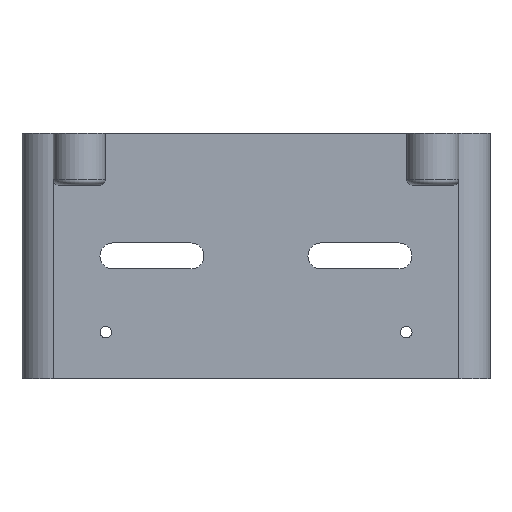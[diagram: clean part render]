
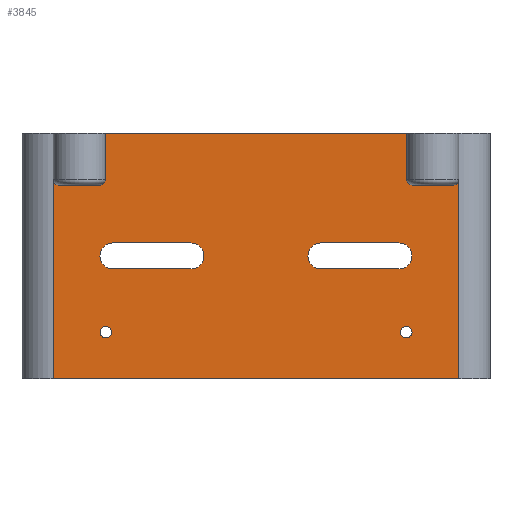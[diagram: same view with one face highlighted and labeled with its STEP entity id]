
A CAD part, front view. The second image highlights one B-rep face of the part: STEP entity #3845.
In plain terms, the highlighted planar face has unit normal (0, -1, 0).
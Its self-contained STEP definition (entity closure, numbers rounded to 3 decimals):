
#115=FACE_BOUND('',#391,.T.);
#116=FACE_BOUND('',#392,.T.);
#117=FACE_BOUND('',#393,.T.);
#118=FACE_BOUND('',#394,.T.);
#183=FACE_OUTER_BOUND('',#390,.T.);
#390=EDGE_LOOP('',(#2601,#2602,#2603,#2604,#2605,#2606,#2607,#2608,#2609,
#2610,#2611,#2612));
#391=EDGE_LOOP('',(#2613));
#392=EDGE_LOOP('',(#2614));
#393=EDGE_LOOP('',(#2615,#2616,#2617,#2618));
#394=EDGE_LOOP('',(#2619,#2620,#2621,#2622));
#667=CIRCLE('',#4075,1.);
#668=CIRCLE('',#4076,1.);
#669=CIRCLE('',#4077,1.);
#670=CIRCLE('',#4078,1.);
#671=CIRCLE('',#4079,1.1);
#672=CIRCLE('',#4080,1.1);
#673=CIRCLE('',#4081,2.5);
#674=CIRCLE('',#4082,2.5);
#675=CIRCLE('',#4083,2.5);
#676=CIRCLE('',#4084,2.5);
#847=LINE('',#5677,#1239);
#848=LINE('',#5679,#1240);
#849=LINE('',#5681,#1241);
#850=LINE('',#5685,#1242);
#851=LINE('',#5689,#1243);
#852=LINE('',#5691,#1244);
#853=LINE('',#5693,#1245);
#854=LINE('',#5697,#1246);
#855=LINE('',#5705,#1247);
#856=LINE('',#5709,#1248);
#857=LINE('',#5715,#1249);
#858=LINE('',#5718,#1250);
#1239=VECTOR('',#4496,10.);
#1240=VECTOR('',#4497,10.);
#1241=VECTOR('',#4498,10.);
#1242=VECTOR('',#4501,10.);
#1243=VECTOR('',#4504,10.);
#1244=VECTOR('',#4505,10.);
#1245=VECTOR('',#4506,10.);
#1246=VECTOR('',#4509,10.);
#1247=VECTOR('',#4516,10.);
#1248=VECTOR('',#4519,10.);
#1249=VECTOR('',#4524,10.);
#1250=VECTOR('',#4527,10.);
#1641=VERTEX_POINT('',#5675);
#1642=VERTEX_POINT('',#5676);
#1643=VERTEX_POINT('',#5678);
#1644=VERTEX_POINT('',#5680);
#1645=VERTEX_POINT('',#5682);
#1646=VERTEX_POINT('',#5684);
#1647=VERTEX_POINT('',#5686);
#1648=VERTEX_POINT('',#5688);
#1649=VERTEX_POINT('',#5690);
#1650=VERTEX_POINT('',#5692);
#1651=VERTEX_POINT('',#5694);
#1652=VERTEX_POINT('',#5696);
#1653=VERTEX_POINT('',#5699);
#1654=VERTEX_POINT('',#5701);
#1655=VERTEX_POINT('',#5703);
#1656=VERTEX_POINT('',#5704);
#1657=VERTEX_POINT('',#5706);
#1658=VERTEX_POINT('',#5708);
#1659=VERTEX_POINT('',#5711);
#1660=VERTEX_POINT('',#5712);
#1661=VERTEX_POINT('',#5714);
#1662=VERTEX_POINT('',#5716);
#2019=EDGE_CURVE('',#1641,#1642,#847,.T.);
#2020=EDGE_CURVE('',#1643,#1642,#848,.T.);
#2021=EDGE_CURVE('',#1643,#1644,#849,.T.);
#2022=EDGE_CURVE('',#1645,#1644,#667,.F.);
#2023=EDGE_CURVE('',#1645,#1646,#850,.T.);
#2024=EDGE_CURVE('',#1646,#1647,#668,.T.);
#2025=EDGE_CURVE('',#1648,#1647,#851,.T.);
#2026=EDGE_CURVE('',#1649,#1648,#852,.T.);
#2027=EDGE_CURVE('',#1649,#1650,#853,.T.);
#2028=EDGE_CURVE('',#1650,#1651,#669,.T.);
#2029=EDGE_CURVE('',#1651,#1652,#854,.T.);
#2030=EDGE_CURVE('',#1641,#1652,#670,.F.);
#2031=EDGE_CURVE('',#1653,#1653,#671,.T.);
#2032=EDGE_CURVE('',#1654,#1654,#672,.T.);
#2033=EDGE_CURVE('',#1655,#1656,#855,.T.);
#2034=EDGE_CURVE('',#1656,#1657,#673,.T.);
#2035=EDGE_CURVE('',#1657,#1658,#856,.T.);
#2036=EDGE_CURVE('',#1658,#1655,#674,.T.);
#2037=EDGE_CURVE('',#1659,#1660,#675,.T.);
#2038=EDGE_CURVE('',#1660,#1661,#857,.T.);
#2039=EDGE_CURVE('',#1661,#1662,#676,.T.);
#2040=EDGE_CURVE('',#1662,#1659,#858,.T.);
#2601=ORIENTED_EDGE('',*,*,#2019,.T.);
#2602=ORIENTED_EDGE('',*,*,#2020,.F.);
#2603=ORIENTED_EDGE('',*,*,#2021,.T.);
#2604=ORIENTED_EDGE('',*,*,#2022,.F.);
#2605=ORIENTED_EDGE('',*,*,#2023,.T.);
#2606=ORIENTED_EDGE('',*,*,#2024,.T.);
#2607=ORIENTED_EDGE('',*,*,#2025,.F.);
#2608=ORIENTED_EDGE('',*,*,#2026,.F.);
#2609=ORIENTED_EDGE('',*,*,#2027,.T.);
#2610=ORIENTED_EDGE('',*,*,#2028,.T.);
#2611=ORIENTED_EDGE('',*,*,#2029,.T.);
#2612=ORIENTED_EDGE('',*,*,#2030,.F.);
#2613=ORIENTED_EDGE('',*,*,#2031,.F.);
#2614=ORIENTED_EDGE('',*,*,#2032,.F.);
#2615=ORIENTED_EDGE('',*,*,#2033,.T.);
#2616=ORIENTED_EDGE('',*,*,#2034,.T.);
#2617=ORIENTED_EDGE('',*,*,#2035,.T.);
#2618=ORIENTED_EDGE('',*,*,#2036,.T.);
#2619=ORIENTED_EDGE('',*,*,#2037,.T.);
#2620=ORIENTED_EDGE('',*,*,#2038,.T.);
#2621=ORIENTED_EDGE('',*,*,#2039,.T.);
#2622=ORIENTED_EDGE('',*,*,#2040,.T.);
#3728=PLANE('',#4074);
#3845=ADVANCED_FACE('',(#183,#115,#116,#117,#118),#3728,.T.);
#4074=AXIS2_PLACEMENT_3D('',#5674,#4494,#4495);
#4075=AXIS2_PLACEMENT_3D('',#5683,#4499,#4500);
#4076=AXIS2_PLACEMENT_3D('',#5687,#4502,#4503);
#4077=AXIS2_PLACEMENT_3D('',#5695,#4507,#4508);
#4078=AXIS2_PLACEMENT_3D('',#5698,#4510,#4511);
#4079=AXIS2_PLACEMENT_3D('',#5700,#4512,#4513);
#4080=AXIS2_PLACEMENT_3D('',#5702,#4514,#4515);
#4081=AXIS2_PLACEMENT_3D('',#5707,#4517,#4518);
#4082=AXIS2_PLACEMENT_3D('',#5710,#4520,#4521);
#4083=AXIS2_PLACEMENT_3D('',#5713,#4522,#4523);
#4084=AXIS2_PLACEMENT_3D('',#5717,#4525,#4526);
#4494=DIRECTION('center_axis',(0.,-1.,0.));
#4495=DIRECTION('ref_axis',(-1.,0.,0.));
#4496=DIRECTION('',(0.,0.,1.));
#4497=DIRECTION('',(1.,0.,0.));
#4498=DIRECTION('',(0.,0.,-1.));
#4499=DIRECTION('center_axis',(0.,1.,0.));
#4500=DIRECTION('ref_axis',(0.707,0.,-0.707));
#4501=DIRECTION('',(-1.,0.,0.));
#4502=DIRECTION('center_axis',(0.,1.,0.));
#4503=DIRECTION('ref_axis',(-0.707,0.,-0.707));
#4504=DIRECTION('',(0.,0.,1.));
#4505=DIRECTION('',(-1.,0.,0.));
#4506=DIRECTION('',(0.,0.,1.));
#4507=DIRECTION('center_axis',(0.,1.,0.));
#4508=DIRECTION('ref_axis',(0.707,0.,-0.707));
#4509=DIRECTION('',(-1.,0.,0.));
#4510=DIRECTION('center_axis',(0.,1.,0.));
#4511=DIRECTION('ref_axis',(-0.707,0.,-0.707));
#4512=DIRECTION('center_axis',(0.,-1.,0.));
#4513=DIRECTION('ref_axis',(1.,0.,0.));
#4514=DIRECTION('center_axis',(0.,-1.,0.));
#4515=DIRECTION('ref_axis',(1.,0.,0.));
#4516=DIRECTION('',(-1.,0.,0.));
#4517=DIRECTION('center_axis',(0.,1.,0.));
#4518=DIRECTION('ref_axis',(0.,0.,1.));
#4519=DIRECTION('',(1.,0.,0.));
#4520=DIRECTION('center_axis',(0.,1.,0.));
#4521=DIRECTION('ref_axis',(0.,0.,-1.));
#4522=DIRECTION('center_axis',(0.,1.,0.));
#4523=DIRECTION('ref_axis',(0.,0.,1.));
#4524=DIRECTION('',(1.,0.,0.));
#4525=DIRECTION('center_axis',(0.,1.,0.));
#4526=DIRECTION('ref_axis',(0.,0.,-1.));
#4527=DIRECTION('',(-1.,0.,0.));
#5674=CARTESIAN_POINT('Origin',(58.249,-98.988,-34.289));
#5675=CARTESIAN_POINT('',(48.249,-98.988,2.));
#5676=CARTESIAN_POINT('',(48.249,-98.988,11.));
#5677=CARTESIAN_POINT('',(48.249,-98.988,-11.645));
#5678=CARTESIAN_POINT('',(-9.751,-98.988,11.));
#5679=CARTESIAN_POINT('',(-19.751,-98.988,11.));
#5680=CARTESIAN_POINT('',(-9.751,-98.988,2.));
#5681=CARTESIAN_POINT('',(-9.751,-98.988,-16.645));
#5682=CARTESIAN_POINT('',(-10.751,-98.988,1.));
#5683=CARTESIAN_POINT('Origin',(-10.751,-98.988,2.));
#5684=CARTESIAN_POINT('',(-18.751,-98.988,1.));
#5685=CARTESIAN_POINT('',(19.249,-98.988,1.));
#5686=CARTESIAN_POINT('',(-19.751,-98.988,2.));
#5687=CARTESIAN_POINT('Origin',(-18.751,-98.988,2.));
#5688=CARTESIAN_POINT('',(-19.751,-98.988,-36.289));
#5689=CARTESIAN_POINT('',(-19.751,-98.988,10.));
#5690=CARTESIAN_POINT('',(58.249,-98.988,-36.289));
#5691=CARTESIAN_POINT('',(3.,-98.988,-36.289));
#5692=CARTESIAN_POINT('',(58.249,-98.988,2.));
#5693=CARTESIAN_POINT('',(58.249,-98.988,-34.289));
#5694=CARTESIAN_POINT('',(57.249,-98.988,1.));
#5695=CARTESIAN_POINT('Origin',(57.249,-98.988,2.));
#5696=CARTESIAN_POINT('',(49.249,-98.988,1.));
#5697=CARTESIAN_POINT('',(53.249,-98.988,1.));
#5698=CARTESIAN_POINT('Origin',(49.249,-98.988,2.));
#5699=CARTESIAN_POINT('',(47.049,-98.988,-27.289));
#5700=CARTESIAN_POINT('Origin',(48.149,-98.988,-27.289));
#5701=CARTESIAN_POINT('',(-10.751,-98.988,-27.289));
#5702=CARTESIAN_POINT('Origin',(-9.651,-98.988,-27.289));
#5703=CARTESIAN_POINT('',(46.749,-98.988,-15.144));
#5704=CARTESIAN_POINT('',(31.749,-98.988,-15.145));
#5705=CARTESIAN_POINT('',(52.499,-98.988,-15.144));
#5706=CARTESIAN_POINT('',(31.749,-98.988,-10.145));
#5707=CARTESIAN_POINT('Origin',(31.749,-98.988,-12.645));
#5708=CARTESIAN_POINT('',(46.749,-98.988,-10.145));
#5709=CARTESIAN_POINT('',(44.999,-98.988,-10.145));
#5710=CARTESIAN_POINT('Origin',(46.749,-98.988,-12.645));
#5711=CARTESIAN_POINT('',(-8.251,-98.988,-15.145));
#5712=CARTESIAN_POINT('',(-8.251,-98.988,-10.145));
#5713=CARTESIAN_POINT('Origin',(-8.251,-98.988,-12.645));
#5714=CARTESIAN_POINT('',(6.749,-98.988,-10.145));
#5715=CARTESIAN_POINT('',(24.999,-98.988,-10.145));
#5716=CARTESIAN_POINT('',(6.749,-98.988,-15.145));
#5717=CARTESIAN_POINT('Origin',(6.749,-98.988,-12.645));
#5718=CARTESIAN_POINT('',(32.499,-98.988,-15.145));
